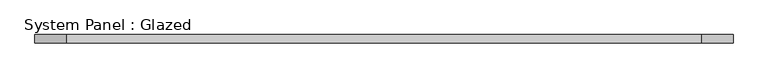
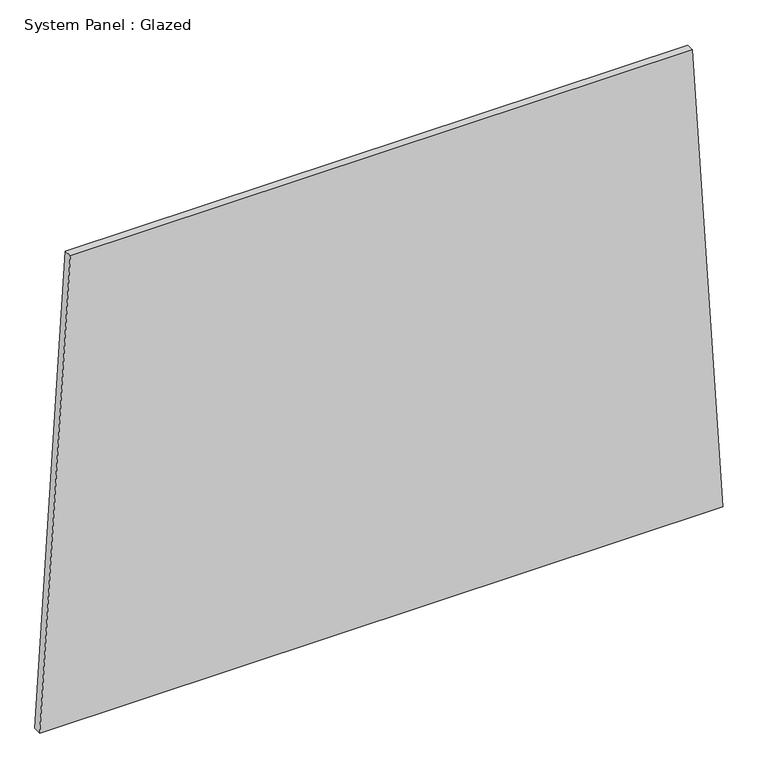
"""IFC4 building model written with IfcOpenShell, lengths in millimetres: plate geometry, System Panel : Glazed."""

import ifcopenshell
import ifcopenshell.guid

model = None  # the IFC model being written
_history = None  # IfcOwnerHistory: only IFC2X3 demands one
_inside = {}  # id of a spatial element -> (the spatial element, [elements in it])
_under = {}  # id of a project, library or spatial element -> (it, [spatial elements below it])
_declared = {}  # id of a project -> (the project, [libraries it declares])
_typed = {}  # id of a type object -> (the type object, [elements of that type])
_made_of = {}  # id of a material, layer set ... -> (it, [elements and type objects made of it])


def new_model(schema):
    """Start an empty IFC model of exactly this schema.

    Asked for "IFC4X3", IfcOpenShell would pick the latest addendum, in which some entities
    have other attributes; the version numbers below select the first issue.
    IFC2X3 requires an IfcOwnerHistory on every rooted entity: one is made here for all.
    """
    global model, _history
    if schema == "IFC4X3":
        model = ifcopenshell.file(schema_version=(4, 3, 0, 0))
    else:
        model = ifcopenshell.file(schema=schema)
    _inside.clear()
    _under.clear()
    _declared.clear()
    _typed.clear()
    _made_of.clear()
    _history = None
    if model.schema == "IFC2X3":
        org = make("IfcOrganization", Name="unknown")
        user = make(
            "IfcPersonAndOrganization",
            ThePerson=make("IfcPerson", FamilyName="unknown"),
            TheOrganization=org,
        )
        app = make(
            "IfcApplication",
            ApplicationDeveloper=org,
            Version="unknown",
            ApplicationFullName="unknown",
            ApplicationIdentifier="unknown",
        )
        _history = make(
            "IfcOwnerHistory",
            OwningUser=user,
            OwningApplication=app,
            ChangeAction="ADDED",
            CreationDate=0,
        )
    return model


def make(cls, **values):
    """One entity of the class cls with the attributes given. An attribute that is None is left unset."""
    return model.create_entity(
        cls, **{name: value for name, value in values.items() if value is not None}
    )


def rooted(cls, **values):
    """An entity with a GlobalId (a new one), such as an element, a storey or a relation."""
    return make(cls, GlobalId=ifcopenshell.guid.new(), OwnerHistory=_history, **values)


def si_unit(unit_type, name, prefix=None):
    """IfcSIUnit, for example si_unit("LENGTHUNIT", "METRE", prefix="MILLI")."""
    return make("IfcSIUnit", UnitType=unit_type, Prefix=prefix, Name=name)


def assignment(units):
    """IfcUnitAssignment: the units of a project."""
    return None if units is None else make("IfcUnitAssignment", Units=units)


def point(xyz):
    """IfcCartesianPoint."""
    return None if xyz is None else make("IfcCartesianPoint", Coordinates=xyz)


def direction(xyz):
    """IfcDirection."""
    return None if xyz is None else make("IfcDirection", DirectionRatios=xyz)


def frame(location, z_axis=None, x_axis=None):
    """IfcAxis2Placement3D, a coordinate frame: its origin and axes. An axis left out is left unset."""
    return make(
        "IfcAxis2Placement3D",
        Location=point(location),
        Axis=direction(z_axis),
        RefDirection=direction(x_axis),
    )


def origin():
    """The frame at (0, 0, 0) with its axes left unset."""
    return frame((0.0, 0.0, 0.0))


def place(relative_to, where):
    """IfcLocalPlacement: puts the frame where relative to a parent placement (None: the world)."""
    return make(
        "IfcLocalPlacement", PlacementRelTo=relative_to, RelativePlacement=where
    )


def context(
    kind, dimensions, precision=None, world=None, true_north=None, identifier=None
):
    """IfcGeometricRepresentationContext, for example the 3D "Model" context."""
    return make(
        "IfcGeometricRepresentationContext",
        ContextIdentifier=identifier,
        ContextType=kind,
        CoordinateSpaceDimension=dimensions,
        Precision=precision,
        WorldCoordinateSystem=world,
        TrueNorth=true_north,
    )


def project(units=None, contexts=None):
    """IfcProject with its units and contexts."""
    return rooted(
        "IfcProject",
        Name="project",
        RepresentationContexts=contexts,
        UnitsInContext=assignment(units),
    )


def spatial(cls, under=None, at=None, **own):
    """A site, building, storey or space (cls), placed at a placement, below another one or the project."""
    s = rooted(cls, ObjectPlacement=at, **own)
    if under is not None:
        _under.setdefault(under.id(), (under, []))[1].append(s)
    return s


def polyline(points):
    """IfcPolyline through the points."""
    return make("IfcPolyline", Points=[point(p) for p in points])


def outline(outer, holes=None, kind="AREA"):
    """IfcArbitraryClosedProfileDef: a profile drawn as a closed curve; with holes, ...WithVoids."""
    if holes is None:
        return make("IfcArbitraryClosedProfileDef", ProfileType=kind, OuterCurve=outer)
    return make(
        "IfcArbitraryProfileDefWithVoids",
        ProfileType=kind,
        OuterCurve=outer,
        InnerCurves=holes,
    )


def extrude(swept, where, along, depth):
    """IfcExtrudedAreaSolid: the profile swept, set in the frame where, extruded along a direction by depth."""
    return make(
        "IfcExtrudedAreaSolid",
        SweptArea=swept,
        Position=where,
        ExtrudedDirection=direction(along),
        Depth=depth,
    )


def shape(context_of_items, identifier, shape_type, items):
    """IfcShapeRepresentation: the items that make up one representation, for example the "Body"."""
    return make(
        "IfcShapeRepresentation",
        ContextOfItems=context_of_items,
        RepresentationIdentifier=identifier,
        RepresentationType=shape_type,
        Items=items,
    )


def source(mapping_origin, context_of_items, identifier, shape_type, items):
    """IfcRepresentationMap: a shape defined once, which mapped items show again and again."""
    return make(
        "IfcRepresentationMap",
        MappingOrigin=mapping_origin,
        MappedRepresentation=shape(context_of_items, identifier, shape_type, items),
    )


def transform(
    local_origin,
    x_axis=None,
    y_axis=None,
    z_axis=None,
    scale=None,
    scale2=None,
    scale3=None,
    uniform=True,
):
    """IfcCartesianTransformationOperator3D, or its non-uniform kind. x_axis, y_axis, z_axis: its Axis1, 2, 3."""
    if uniform:
        return make(
            "IfcCartesianTransformationOperator3D",
            Axis1=direction(x_axis),
            Axis2=direction(y_axis),
            LocalOrigin=point(local_origin),
            Scale=scale,
            Axis3=direction(z_axis),
        )
    return make(
        "IfcCartesianTransformationOperator3DnonUniform",
        Axis1=direction(x_axis),
        Axis2=direction(y_axis),
        LocalOrigin=point(local_origin),
        Scale=scale,
        Axis3=direction(z_axis),
        Scale2=scale2,
        Scale3=scale3,
    )


def mapped(mapping_source, mapping_target):
    """IfcMappedItem: shows the shape of a source again, moved by a transform."""
    return make(
        "IfcMappedItem", MappingSource=mapping_source, MappingTarget=mapping_target
    )


def made_of(thing, what):
    """Note that an element or type object is made of a material, layer set ...; save() writes the relation."""
    if what is not None:
        _made_of.setdefault(what.id(), (what, []))[1].append(thing)
    return thing


def element(
    cls,
    number,
    at=None,
    inside=None,
    cuts=None,
    type_object=None,
    material=None,
    context=None,
    identifier="Body",
    shape_type=None,
    held_by="IfcProductDefinitionShape",
    body=None,
    shapes=None,
    **own,
):
    """One element of the class cls, such as IfcWall. Its Tag is "e" and its number.

    at: its placement. inside: the storey or other place that contains it. cuts: it is an
    opening in that element (IfcRelVoidsElement). A single representation is given by context,
    identifier, shape_type and body (its items); several are given by shapes. held_by: the class
    of the entity that holds the representations. save() writes the other relations.
    """
    e = rooted(cls, Tag="e%d" % number, ObjectPlacement=at, **own)
    if body is not None:
        shapes = [shape(context, identifier, shape_type, body)]
    if shapes is not None:
        e.Representation = make(held_by, Representations=shapes)
    if inside is not None:
        _inside.setdefault(inside.id(), (inside, []))[1].append(e)
    if cuts is not None:
        rooted(
            "IfcRelVoidsElement", RelatingBuildingElement=cuts, RelatedOpeningElement=e
        )
    if type_object is not None:
        _typed.setdefault(type_object.id(), (type_object, []))[1].append(e)
    return made_of(e, material)


def aggregate(whole, parts):
    """IfcRelAggregates: a whole, such as a stair, and the parts it consists of."""
    return rooted("IfcRelAggregates", RelatingObject=whole, RelatedObjects=parts)


def save(model, path):
    """Write the relations noted so far, then the file.

    IfcRelAggregates (storeys below a building ...), IfcRelContainedInSpatialStructure (elements
    in a storey), IfcRelDefinesByType, IfcRelAssociatesMaterial and IfcRelDeclares: one each for
    every whole, place, type object, material and project.
    """
    for whole, parts in _under.values():
        aggregate(whole, parts)
    for where, things in _inside.values():
        rooted(
            "IfcRelContainedInSpatialStructure",
            RelatedElements=things,
            RelatingStructure=where,
        )
    for kind, things in _typed.values():
        rooted("IfcRelDefinesByType", RelatedObjects=things, RelatingType=kind)
    for what, things in _made_of.values():
        rooted("IfcRelAssociatesMaterial", RelatedObjects=things, RelatingMaterial=what)
    for by, libraries in _declared.values():
        rooted("IfcRelDeclares", RelatingContext=by, RelatedDefinitions=libraries)
    model.write(path)


def system_panel_glazed_57588f8c(model_context):
    return source(origin(), model_context, "Body", "SweptSolid", [
        extrude(outline(polyline([(0.0, -1035.5962501), (0.0, 1035.5962501), (1497.1405938, 943.0216985), (1497.1405938, -943.0217254), (0.0, -1035.5962501)])), frame((0.0, -49.5, 0.0), z_axis=(0.0, 1.0, 0.0), x_axis=(0.0, 0.0, 1.0)), (0.0, 0.0, 1.0), 25.0),
    ])


if __name__ == "__main__":
    model = new_model("IFC4")
    model_context = context("Model", 3, world=origin())
    ifc_project = project(units=[si_unit("LENGTHUNIT", "METRE", prefix="MILLI")], contexts=[model_context])
    site = spatial("IfcSite", under=ifc_project)
    building = spatial("IfcBuilding", under=site)
    placement = place(None, origin())
    system_panel_glazed_shape = system_panel_glazed_57588f8c(model_context)
    element("IfcPlate", 1, ObjectType="System Panel : Glazed", at=placement, inside=building, context=model_context, shape_type="MappedRepresentation", body=[
        mapped(system_panel_glazed_shape, transform((0.0, 0.0, 0.0), x_axis=(1.0, 0.0, 0.0), y_axis=(0.0, 1.0, 0.0), z_axis=(0.0, 0.0, 1.0))),
    ])
    save(model, "model.ifc")
